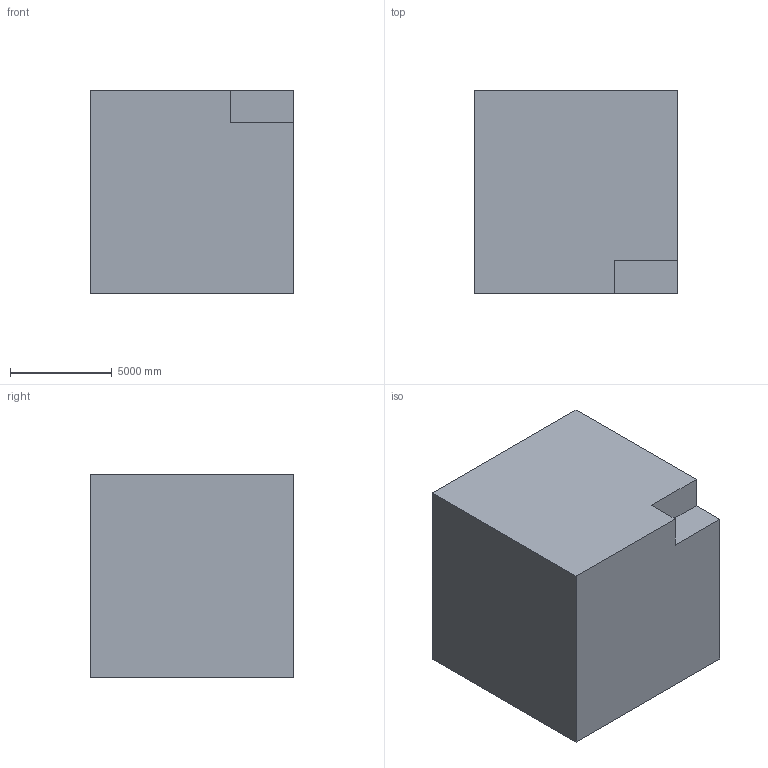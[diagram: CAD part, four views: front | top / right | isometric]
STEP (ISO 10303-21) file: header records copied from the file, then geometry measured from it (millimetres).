
FILE_DESCRIPTION (( 'STEP AP203' ), '1' );
FILE_NAME ('1138.STEP', '2022-08-18T12:54:42', ( 'user' ), ( '' ), 'SwSTEP 2.0', 'SolidWorks 2021', '' );
FILE_SCHEMA (( 'CONFIG_CONTROL_DESIGN' ));
Length unit declared in the file: centimetre
Products named in the file (1): 1138
Bounding box: 10000 x 10000 x 10000 mm (x, y, z)
Volume: 985208379133 mm3; surface area: 600000000 mm2
Topology: 1 solids, 1 shells, 12 faces, 30 edges, 20 vertices
Faces by surface type: plane 12
Entity records: 431 total; most frequent: CARTESIAN_POINT 63, ORIENTED_EDGE 60, DIRECTION 56, VECTOR 30, EDGE_CURVE 30, LINE 30, VERTEX_POINT 20, AXIS2_PLACEMENT_3D 13
